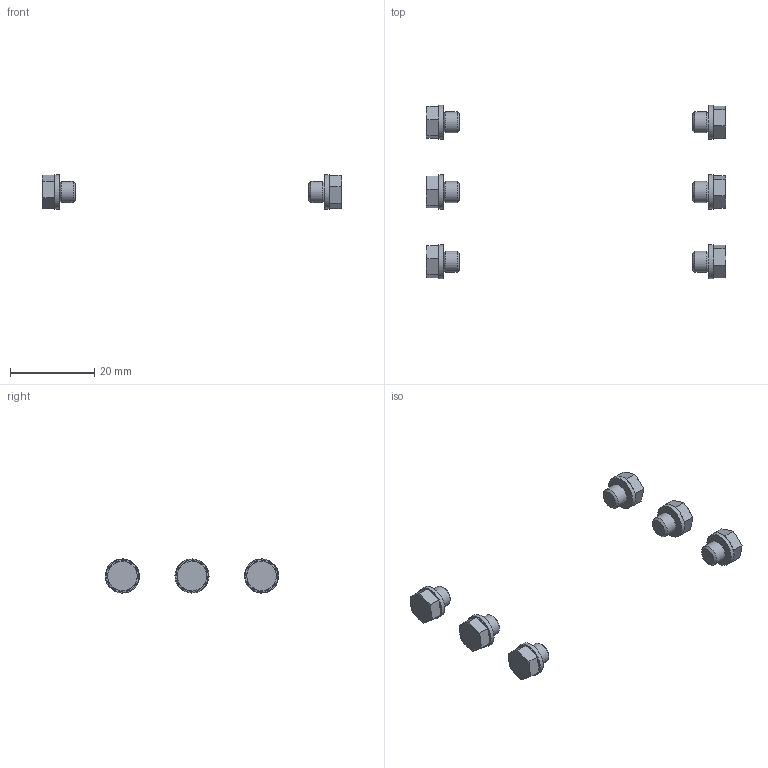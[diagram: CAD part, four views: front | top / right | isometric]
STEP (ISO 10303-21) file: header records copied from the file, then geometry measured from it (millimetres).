
FILE_DESCRIPTION(/* description */ ('','CAx-IF Rec.Pracs.---Representation and Presentation of Product Manufacturing Information (PMI)---4.0---2014-10-13'),/* implementation_level */ '2;1');
FILE_NAME(/* name */ 'ZG-AC063-BM5-1.stp',/* time_stamp */ '2025-05-05T16:44:38+02:00',/* author */ ('vbednarz'),/* organization */ (''),/* preprocessor_version */ 'ST-DEVELOPER v20',/* originating_system */ 'Autodesk Inventor 2024',/* authorisation */ '');
FILE_SCHEMA (('AP242_MANAGED_MODEL_BASED_3D_ENGINEERING_MIM_LF { 1 0 10303 442 1 1 4 }'));
Length unit declared in the file: millimetre
Products named in the file (2): ZG-AC063-BM5-1; 3843_B-M5
Assembly tree (6 placements, depth 2):
  ZG-AC063-BM5-1
    3843_B-M5  x6
Bounding box: 71 x 41.08 x 8.08 mm (x, y, z)
Volume: 1499.8 mm3; surface area: 1586.4 mm2
Topology: 6 solids, 6 shells, 198 faces, 408 edges, 234 vertices
Faces by surface type: plane 96, cone 84, cylinder 18
Full cylindrical faces by diameter (mm): 5 x6, 7.7 x6, 8.085 x6
Entity records: 1003 total; most frequent: CARTESIAN_POINT 213, DIRECTION 161, ORIENTED_EDGE 136, AXIS2_PLACEMENT_3D 72, EDGE_CURVE 68, VERTEX_POINT 39, EDGE_LOOP 35, FACE_OUTER_BOUND 33
